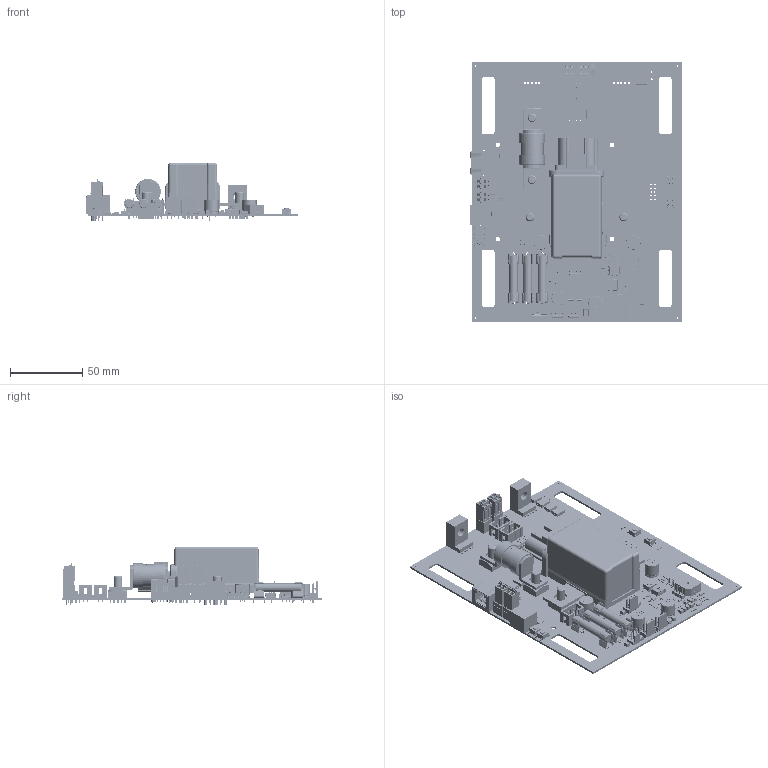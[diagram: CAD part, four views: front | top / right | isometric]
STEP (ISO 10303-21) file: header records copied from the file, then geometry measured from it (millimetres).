
FILE_DESCRIPTION(('KiCad electronic assembly'),'2;1');
FILE_NAME('PowerPro.step','2025-07-12T19:01:44',('Pcbnew'),('Kicad'), 'Open CASCADE STEP processor 7.9','KiCad to STEP converter','Unknown' );
FILE_SCHEMA(('AUTOMOTIVE_DESIGN { 1 0 10303 214 1 1 1 1 }'));
Length unit declared in the file: millimetre
Products named in the file (54): PowerPro 1; SO-4_4.4x4.3mm_P2.54mm; C_0603_1608Metric; IDC-Header_2x03_P2.54mm_Vertical; R_0603_1608Metric; FanPinHeader_1x04_P2.54mm_Vertical; D_SMC; LED_0603_1608Metric; HSOP-8-1EP_3.9x4.9mm_P1.27mm_EP2.41x3.1mm; SOT-23; R_1206_3216Metric; 74622106; PhoenixContact_MCV_1,5_2-G-3.5_1x02_P3.50mm_Vertical; C_1210_3225Metric; PinHeader_1x04_P2.54mm_Vertical; Download_STEP_691304100002 (rev1); 691304100002; 691304100002_Bas; 6913041000xx_Levier; 6913041000xx_Pin; 6913041000xx_Lamelle; 7461098; Download_STP_WE-LQFS-4818 (rev1); 4818_74406042_Housing; 4818_74406042; 4818_74406042_Pads; Glue L; Glue R; TO-252-2; PowerPro 1.53.1; User Library-Clips LF-102071 with fuse 6_3x32; LF 102071; 6,3x32; CP_Radial_D10.0mm_P5.00mm; ws-sltv_450301014042 (rev1); cover; slide; LQFP-32_7x7mm_P0.8mm; MD-60SGK; Body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
Assembly tree (194 placements, depth 3):
  PowerPro 1
    SO-4_4.4x4.3mm_P2.54mm  x2
    C_0603_1608Metric  x17
    IDC-Header_2x03_P2.54mm_Vertical  x3
    R_0603_1608Metric  x43
    FanPinHeader_1x04_P2.54mm_Vertical
    D_SMC  x16
    LED_0603_1608Metric  x4
    HSOP-8-1EP_3.9x4.9mm_P1.27mm_EP2.41x3.1mm
    SOT-23  x11
    R_1206_3216Metric  x6
    74622106  x2
    PhoenixContact_MCV_1,5_2-G-3.5_1x02_P3.50mm_Vertical  x4
    C_1210_3225Metric  x9
    PinHeader_1x04_P2.54mm_Vertical
    Download_STEP_691304100002 (rev1)  x4
      691304100002
      691304100002_Bas
      6913041000xx_Levier
      6913041000xx_Pin
      6913041000xx_Lamelle
    7461098  x4
    Download_STP_WE-LQFS-4818 (rev1)
      4818_74406042_Housing
      4818_74406042
      4818_74406042
      4818_74406042_Pads  x2
      Glue L
      Glue R
    TO-252-2  x4
      PowerPro 1.53.1
    User Library-Clips LF-102071 with fuse 6_3x32  x3
      LF 102071
      6,3x32
    CP_Radial_D10.0mm_P5.00mm  x4
    ws-sltv_450301014042 (rev1)
      cover
      slide
    LQFP-32_7x7mm_P0.8mm
    MD-60SGK
      Body
      Leads  x9
    SW_SPST_PTS645  x5
    D_SMB  x2
    RJ45_Amphenol_RJHSE538X
    PinHeader_2x05_P1.27mm_Vertical_SMD
    D_MiniMELF  x2
    SW_DIP_SPSTx05_Slide_6.7x14.26mm_W7.62mm_P2.54mm_LowProfile
    Molex_KK-254_AE-6410-04A_1x04_P2.54mm_Vertical  x3
    AT1 EV_105 v1
    CMI-1265-88-SMT-TR
    Nidec_Copal_SH-7010B
    7-1414778-3
    powerPro_PCB
Bounding box: 146.94 x 180 x 40.5 mm (x, y, z)
Volume: 147083.7 mm3; surface area: 115722.3 mm2
Topology: 303 solids, 307 shells, 15843 faces, 40077 edges, 25097 vertices
Faces by surface type: plane 9958, cylinder 3668, bspline 1989, torus 76, cone 72, revolution 40, extrusion 26, sphere 14
Full cylindrical faces by diameter (mm): 0.1 x14, 0.3 x6, 0.5 x12, 0.6 x23, 0.7 x62, 0.8 x13, 0.89 x12, 1 x67, 1.02 x4, 1.1 x7, 1.19 x12, 1.2 x17, 1.35 x4, 1.4 x8, 1.45 x150, 1.57 x2, 1.9 x1, 1.98 x12, 2.109 x27, 3.2 x4, 3.25 x4, 3.3 x1, 3.5 x5, 4.917 x2, 6 x8, 16 x1, 17.8 x2
Entity records: 214740 total; most frequent: CARTESIAN_POINT 50635, ORIENTED_EDGE 28477, DIRECTION 25617, EDGE_CURVE 14237, VECTOR 10131, LINE 10105, VERTEX_POINT 9103, AXIS2_PLACEMENT_3D 7738
